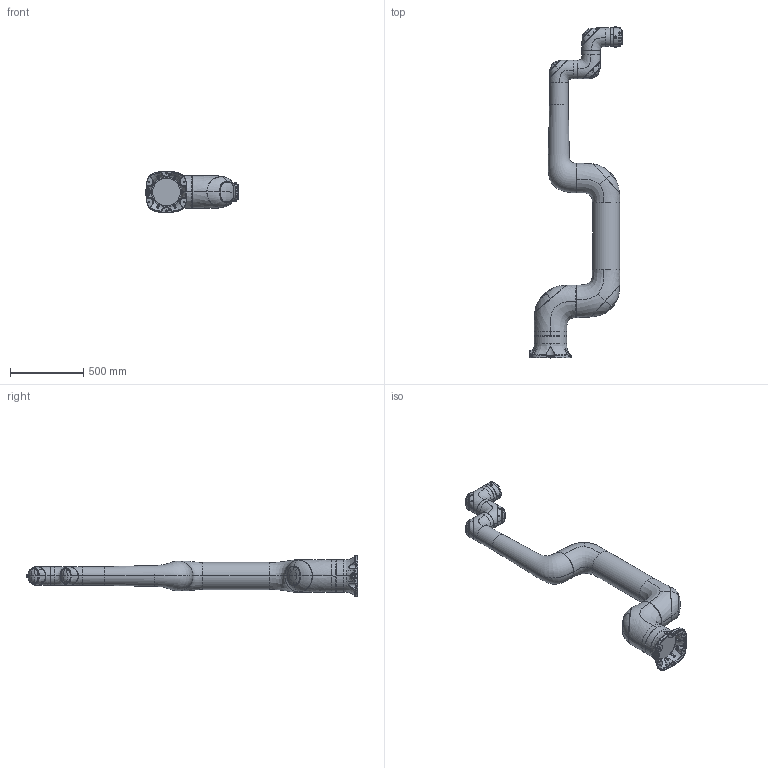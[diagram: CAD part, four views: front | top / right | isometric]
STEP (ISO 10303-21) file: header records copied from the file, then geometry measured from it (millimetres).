
FILE_DESCRIPTION((''),'2;1');
FILE_NAME('CR630-1800-P2_ASM','2025-07-29T20:41:40',('lw'),(''),'CREO PARAMETRIC BY PTC INC, 2024153','CREO PARAMETRIC BY PTC INC, 2024153','');
FILE_SCHEMA(('CONFIG_CONTROL_DESIGN'));
Products named in the file (7): CR630-1800-J0; CR630-1800-J1; CR630-1800-J2; CR630-1800-J3; CR630-1800-J4J5; CR630-1800-J6; CR630-1800-P2_ASM
Assembly tree (7 placements, depth 2):
  CR630-1800-P2_ASM
    CR630-1800-J0
    CR630-1800-J1
    CR630-1800-J2
    CR630-1800-J3
    CR630-1800-J4J5  x2
    CR630-1800-J6
Bounding box: 628 x 2262.1 x 280 mm (x, y, z)
Volume: 74693991.2 mm3; surface area: 2284818.4 mm2
Topology: 7 solids, 7 shells, 3214 faces, 7790 edges, 4790 vertices
Faces by surface type: plane 1367, cylinder 788, bspline 676, torus 151, cone 106, sphere 64, extrusion 60, revolution 2
Entity records: 168707 total; most frequent: CARTESIAN_POINT 102174, ORIENTED_EDGE 14316, DIRECTION 12835, EDGE_CURVE 7158, AXIS2_PLACEMENT_3D 4802, VERTEX_POINT 4450, EDGE_LOOP 3342, VECTOR 3229
